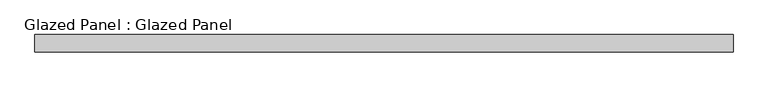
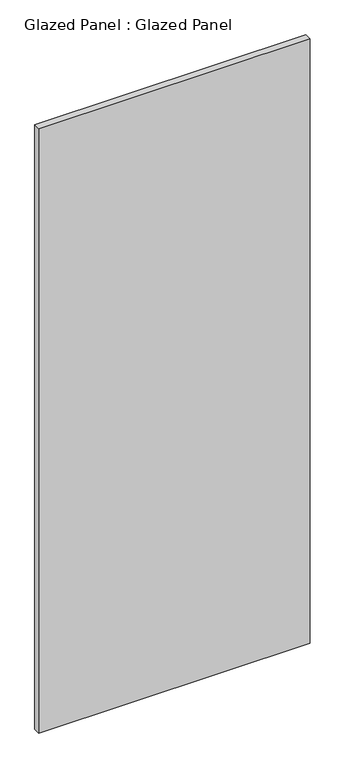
"""IFC4 building model written with IfcOpenShell, lengths in millimetres: plate geometry, Glazed Panel : Glazed Panel."""

from ifc_helpers import new_model, si_unit, origin, origin_with_axes, place, context, project, spatial, polyline, outline, extrude, source, transform, mapped, element, save


def glazed_panel_glazed_panel_828ecd63(model_context):
    return source(origin(), model_context, "Body", "SweptSolid", [
        extrude(outline(polyline([(511.175, 38.1), (-511.175, 38.1), (-511.175, 63.5), (511.175, 63.5), (511.175, 38.1)])), origin_with_axes(), (0.0, 0.0, 1.0), 2406.65),
    ])


if __name__ == "__main__":
    model = new_model("IFC4")
    model_context = context("Model", 3, world=origin())
    ifc_project = project(units=[si_unit("LENGTHUNIT", "METRE", prefix="MILLI")], contexts=[model_context])
    site = spatial("IfcSite", under=ifc_project)
    building = spatial("IfcBuilding", under=site)
    placement = place(None, origin())
    glazed_panel_glazed_panel_shape = glazed_panel_glazed_panel_828ecd63(model_context)
    element("IfcPlate", 1, ObjectType="Glazed Panel : Glazed Panel", at=placement, inside=building, context=model_context, shape_type="MappedRepresentation", body=[
        mapped(glazed_panel_glazed_panel_shape, transform((0.0, 0.0, 0.0), x_axis=(1.0, 0.0, 0.0), y_axis=(0.0, 1.0, 0.0), z_axis=(0.0, 0.0, 1.0))),
    ])
    save(model, "model.ifc")
